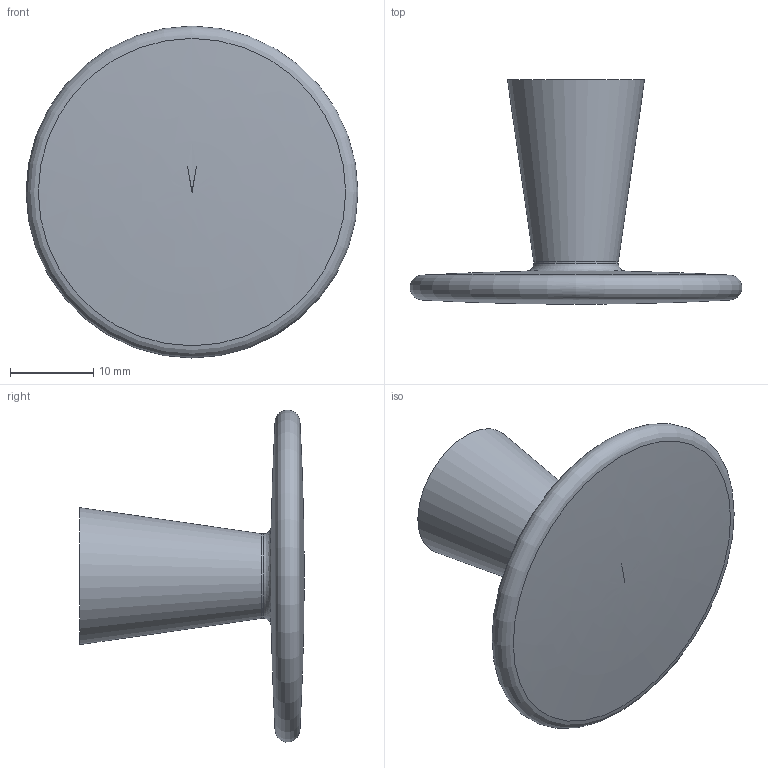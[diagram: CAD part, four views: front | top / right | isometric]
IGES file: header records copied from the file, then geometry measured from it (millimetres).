
Start section: Data from Parasolid IGES Translator 15.0.47, Copyright(c) 2006 Siemens P LM Software. All Rights Reserved.
Global section: file name: 115312.igs; native system:  By UGS Corp.; preprocessor: XPlus GENERIC/IGES 3.0; author: Noname; organization: Noname; date: 20140122.140707; units: millimetre
Bounding box: 39.95 x 27 x 39.98 mm (x, y, z)
Surface area: 3912.4 mm2 (no closed solid volume)
Topology: 0 solids, 0 shells, 9 faces, 31 edges, 21 vertices
Faces by surface type: revolution 7, extrusion 2
